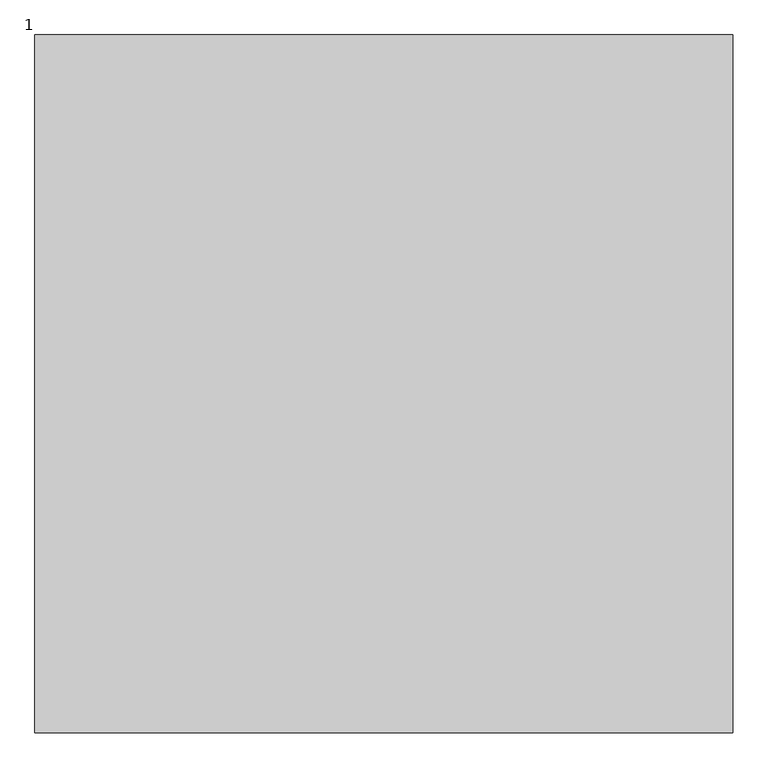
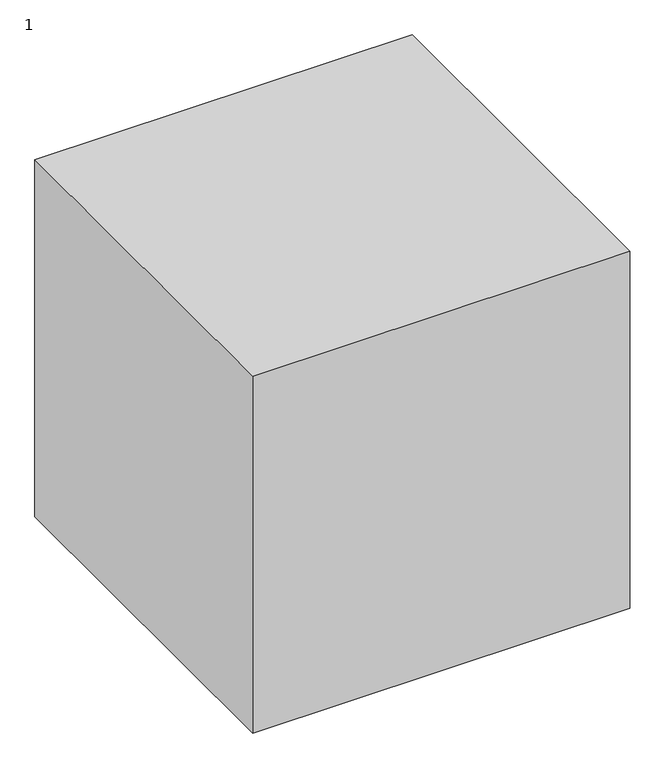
"""IFC4 building model written with IfcOpenShell, lengths in millimetres: proxy geometry, 12221112111 : 1."""

import ifcopenshell
import ifcopenshell.guid

model = None  # the IFC model being written
_history = None  # IfcOwnerHistory: only IFC2X3 demands one
_inside = {}  # id of a spatial element -> (the spatial element, [elements in it])
_under = {}  # id of a project, library or spatial element -> (it, [spatial elements below it])
_declared = {}  # id of a project -> (the project, [libraries it declares])
_typed = {}  # id of a type object -> (the type object, [elements of that type])
_made_of = {}  # id of a material, layer set ... -> (it, [elements and type objects made of it])


def new_model(schema):
    """Start an empty IFC model of exactly this schema.

    Asked for "IFC4X3", IfcOpenShell would pick the latest addendum, in which some entities
    have other attributes; the version numbers below select the first issue.
    IFC2X3 requires an IfcOwnerHistory on every rooted entity: one is made here for all.
    """
    global model, _history
    if schema == "IFC4X3":
        model = ifcopenshell.file(schema_version=(4, 3, 0, 0))
    else:
        model = ifcopenshell.file(schema=schema)
    _inside.clear()
    _under.clear()
    _declared.clear()
    _typed.clear()
    _made_of.clear()
    _history = None
    if model.schema == "IFC2X3":
        org = make("IfcOrganization", Name="unknown")
        user = make(
            "IfcPersonAndOrganization",
            ThePerson=make("IfcPerson", FamilyName="unknown"),
            TheOrganization=org,
        )
        app = make(
            "IfcApplication",
            ApplicationDeveloper=org,
            Version="unknown",
            ApplicationFullName="unknown",
            ApplicationIdentifier="unknown",
        )
        _history = make(
            "IfcOwnerHistory",
            OwningUser=user,
            OwningApplication=app,
            ChangeAction="ADDED",
            CreationDate=0,
        )
    return model


def make(cls, **values):
    """One entity of the class cls with the attributes given. An attribute that is None is left unset."""
    return model.create_entity(
        cls, **{name: value for name, value in values.items() if value is not None}
    )


def rooted(cls, **values):
    """An entity with a GlobalId (a new one), such as an element, a storey or a relation."""
    return make(cls, GlobalId=ifcopenshell.guid.new(), OwnerHistory=_history, **values)


def si_unit(unit_type, name, prefix=None):
    """IfcSIUnit, for example si_unit("LENGTHUNIT", "METRE", prefix="MILLI")."""
    return make("IfcSIUnit", UnitType=unit_type, Prefix=prefix, Name=name)


def assignment(units):
    """IfcUnitAssignment: the units of a project."""
    return None if units is None else make("IfcUnitAssignment", Units=units)


def point(xyz):
    """IfcCartesianPoint."""
    return None if xyz is None else make("IfcCartesianPoint", Coordinates=xyz)


def direction(xyz):
    """IfcDirection."""
    return None if xyz is None else make("IfcDirection", DirectionRatios=xyz)


def frame(location, z_axis=None, x_axis=None):
    """IfcAxis2Placement3D, a coordinate frame: its origin and axes. An axis left out is left unset."""
    return make(
        "IfcAxis2Placement3D",
        Location=point(location),
        Axis=direction(z_axis),
        RefDirection=direction(x_axis),
    )


def origin():
    """The frame at (0, 0, 0) with its axes left unset."""
    return frame((0.0, 0.0, 0.0))


def origin_with_axes():
    """The frame at (0, 0, 0) with the z axis (0, 0, 1) and the x axis (1, 0, 0) written out."""
    return frame((0.0, 0.0, 0.0), z_axis=(0.0, 0.0, 1.0), x_axis=(1.0, 0.0, 0.0))


def place(relative_to, where):
    """IfcLocalPlacement: puts the frame where relative to a parent placement (None: the world)."""
    return make(
        "IfcLocalPlacement", PlacementRelTo=relative_to, RelativePlacement=where
    )


def context(
    kind, dimensions, precision=None, world=None, true_north=None, identifier=None
):
    """IfcGeometricRepresentationContext, for example the 3D "Model" context."""
    return make(
        "IfcGeometricRepresentationContext",
        ContextIdentifier=identifier,
        ContextType=kind,
        CoordinateSpaceDimension=dimensions,
        Precision=precision,
        WorldCoordinateSystem=world,
        TrueNorth=true_north,
    )


def project(units=None, contexts=None):
    """IfcProject with its units and contexts."""
    return rooted(
        "IfcProject",
        Name="project",
        RepresentationContexts=contexts,
        UnitsInContext=assignment(units),
    )


def spatial(cls, under=None, at=None, **own):
    """A site, building, storey or space (cls), placed at a placement, below another one or the project."""
    s = rooted(cls, ObjectPlacement=at, **own)
    if under is not None:
        _under.setdefault(under.id(), (under, []))[1].append(s)
    return s


def polyline(points):
    """IfcPolyline through the points."""
    return make("IfcPolyline", Points=[point(p) for p in points])


def outline(outer, holes=None, kind="AREA"):
    """IfcArbitraryClosedProfileDef: a profile drawn as a closed curve; with holes, ...WithVoids."""
    if holes is None:
        return make("IfcArbitraryClosedProfileDef", ProfileType=kind, OuterCurve=outer)
    return make(
        "IfcArbitraryProfileDefWithVoids",
        ProfileType=kind,
        OuterCurve=outer,
        InnerCurves=holes,
    )


def extrude(swept, where, along, depth):
    """IfcExtrudedAreaSolid: the profile swept, set in the frame where, extruded along a direction by depth."""
    return make(
        "IfcExtrudedAreaSolid",
        SweptArea=swept,
        Position=where,
        ExtrudedDirection=direction(along),
        Depth=depth,
    )


def shape(context_of_items, identifier, shape_type, items):
    """IfcShapeRepresentation: the items that make up one representation, for example the "Body"."""
    return make(
        "IfcShapeRepresentation",
        ContextOfItems=context_of_items,
        RepresentationIdentifier=identifier,
        RepresentationType=shape_type,
        Items=items,
    )


def source(mapping_origin, context_of_items, identifier, shape_type, items):
    """IfcRepresentationMap: a shape defined once, which mapped items show again and again."""
    return make(
        "IfcRepresentationMap",
        MappingOrigin=mapping_origin,
        MappedRepresentation=shape(context_of_items, identifier, shape_type, items),
    )


def transform(
    local_origin,
    x_axis=None,
    y_axis=None,
    z_axis=None,
    scale=None,
    scale2=None,
    scale3=None,
    uniform=True,
):
    """IfcCartesianTransformationOperator3D, or its non-uniform kind. x_axis, y_axis, z_axis: its Axis1, 2, 3."""
    if uniform:
        return make(
            "IfcCartesianTransformationOperator3D",
            Axis1=direction(x_axis),
            Axis2=direction(y_axis),
            LocalOrigin=point(local_origin),
            Scale=scale,
            Axis3=direction(z_axis),
        )
    return make(
        "IfcCartesianTransformationOperator3DnonUniform",
        Axis1=direction(x_axis),
        Axis2=direction(y_axis),
        LocalOrigin=point(local_origin),
        Scale=scale,
        Axis3=direction(z_axis),
        Scale2=scale2,
        Scale3=scale3,
    )


def mapped(mapping_source, mapping_target):
    """IfcMappedItem: shows the shape of a source again, moved by a transform."""
    return make(
        "IfcMappedItem", MappingSource=mapping_source, MappingTarget=mapping_target
    )


def made_of(thing, what):
    """Note that an element or type object is made of a material, layer set ...; save() writes the relation."""
    if what is not None:
        _made_of.setdefault(what.id(), (what, []))[1].append(thing)
    return thing


def element(
    cls,
    number,
    at=None,
    inside=None,
    cuts=None,
    type_object=None,
    material=None,
    context=None,
    identifier="Body",
    shape_type=None,
    held_by="IfcProductDefinitionShape",
    body=None,
    shapes=None,
    **own,
):
    """One element of the class cls, such as IfcWall. Its Tag is "e" and its number.

    at: its placement. inside: the storey or other place that contains it. cuts: it is an
    opening in that element (IfcRelVoidsElement). A single representation is given by context,
    identifier, shape_type and body (its items); several are given by shapes. held_by: the class
    of the entity that holds the representations. save() writes the other relations.
    """
    e = rooted(cls, Tag="e%d" % number, ObjectPlacement=at, **own)
    if body is not None:
        shapes = [shape(context, identifier, shape_type, body)]
    if shapes is not None:
        e.Representation = make(held_by, Representations=shapes)
    if inside is not None:
        _inside.setdefault(inside.id(), (inside, []))[1].append(e)
    if cuts is not None:
        rooted(
            "IfcRelVoidsElement", RelatingBuildingElement=cuts, RelatedOpeningElement=e
        )
    if type_object is not None:
        _typed.setdefault(type_object.id(), (type_object, []))[1].append(e)
    return made_of(e, material)


def aggregate(whole, parts):
    """IfcRelAggregates: a whole, such as a stair, and the parts it consists of."""
    return rooted("IfcRelAggregates", RelatingObject=whole, RelatedObjects=parts)


def save(model, path):
    """Write the relations noted so far, then the file.

    IfcRelAggregates (storeys below a building ...), IfcRelContainedInSpatialStructure (elements
    in a storey), IfcRelDefinesByType, IfcRelAssociatesMaterial and IfcRelDeclares: one each for
    every whole, place, type object, material and project.
    """
    for whole, parts in _under.values():
        aggregate(whole, parts)
    for where, things in _inside.values():
        rooted(
            "IfcRelContainedInSpatialStructure",
            RelatedElements=things,
            RelatingStructure=where,
        )
    for kind, things in _typed.values():
        rooted("IfcRelDefinesByType", RelatedObjects=things, RelatingType=kind)
    for what, things in _made_of.values():
        rooted("IfcRelAssociatesMaterial", RelatedObjects=things, RelatingMaterial=what)
    for by, libraries in _declared.values():
        rooted("IfcRelDeclares", RelatingContext=by, RelatedDefinitions=libraries)
    model.write(path)


def proxy_1_e380e4dc(model_context):
    return source(origin(), model_context, "Body", "SweptSolid", [
        extrude(outline(polyline([(3692.0243292, -4664.7705528), (3692.0243292, -5664.7705528), (2692.0243292, -5664.7705528), (2692.0243292, -4664.7705528), (3692.0243292, -4664.7705528)])), origin_with_axes(), (0.0, 0.0, 1.0), 1000.0),
    ])


if __name__ == "__main__":
    model = new_model("IFC4")
    model_context = context("Model", 3, world=origin())
    ifc_project = project(units=[si_unit("LENGTHUNIT", "METRE", prefix="MILLI")], contexts=[model_context])
    site = spatial("IfcSite", under=ifc_project)
    building = spatial("IfcBuilding", under=site)
    placement = place(None, origin())
    proxy_1_shape = proxy_1_e380e4dc(model_context)
    element("IfcBuildingElementProxy", 1, Name="12221112111 : 1", ObjectType="12221112111 : 1", at=placement, inside=building, context=model_context, shape_type="MappedRepresentation", body=[
        mapped(proxy_1_shape, transform((0.0, 0.0, 0.0), x_axis=(1.0, 0.0, 0.0), y_axis=(0.0, 1.0, 0.0), z_axis=(0.0, 0.0, 1.0))),
    ])
    save(model, "model.ifc")
